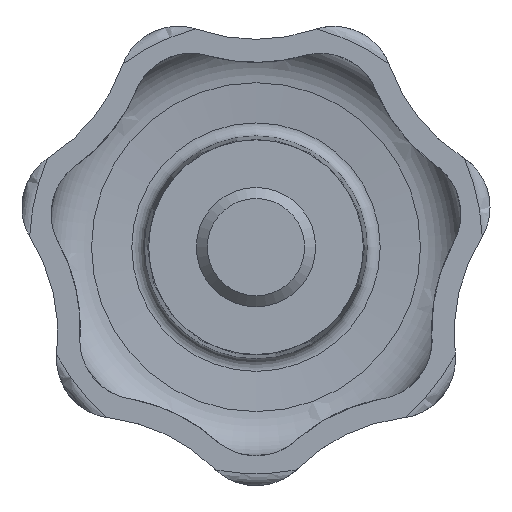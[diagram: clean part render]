
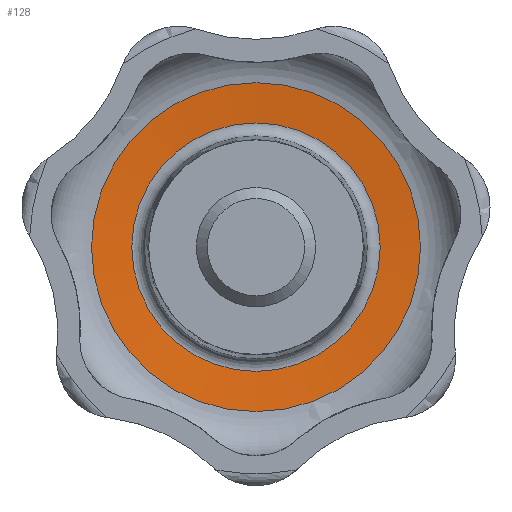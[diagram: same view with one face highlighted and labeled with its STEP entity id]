
A CAD part, front view. The second image highlights one B-rep face of the part: STEP entity #128.
In plain terms, the highlighted conical face has half-angle 85 degrees and reference radius 13.793 mm.
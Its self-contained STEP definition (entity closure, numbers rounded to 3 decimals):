
#128 = ADVANCED_FACE( '', ( #265, #266 ), #267, .F. );
#265 = FACE_BOUND( '', #423, .T. );
#266 = FACE_OUTER_BOUND( '', #424, .T. );
#267 = CONICAL_SURFACE( '', #425, 13.793, 1.484 );
#423 = EDGE_LOOP( '', ( #938 ) );
#424 = EDGE_LOOP( '', ( #939 ) );
#425 = AXIS2_PLACEMENT_3D( '', #940, #941, #942 );
#938 = ORIENTED_EDGE( '', *, *, #1269, .F. );
#939 = ORIENTED_EDGE( '', *, *, #1121, .T. );
#940 = CARTESIAN_POINT( '', ( 0., 19.611, 0. ) );
#941 = DIRECTION( '', ( 0., -1., 0. ) );
#942 = DIRECTION( '', ( 1., 0., 0. ) );
#1121 = EDGE_CURVE( '', #1355, #1355, #1356, .T. );
#1269 = EDGE_CURVE( '', #1599, #1599, #1600, .T. );
#1355 = VERTEX_POINT( '', #1957 );
#1356 = CIRCLE( '', #1958, 13.793 );
#1599 = VERTEX_POINT( '', #2955 );
#1600 = CIRCLE( '', #2956, 10.417 );
#1957 = CARTESIAN_POINT( '', ( 13.793, 19.611, 0. ) );
#1958 = AXIS2_PLACEMENT_3D( '', #3056, #3057, #3058 );
#2955 = CARTESIAN_POINT( '', ( 10.417, 19.907, 0. ) );
#2956 = AXIS2_PLACEMENT_3D( '', #3304, #3305, #3306 );
#3056 = CARTESIAN_POINT( '', ( 0., 19.611, 0. ) );
#3057 = DIRECTION( '', ( 0., -1., 0. ) );
#3058 = DIRECTION( '', ( 1., 0., 0. ) );
#3304 = CARTESIAN_POINT( '', ( 0., 19.907, 0. ) );
#3305 = DIRECTION( '', ( 0., -1., 0. ) );
#3306 = DIRECTION( '', ( 1., 0., 0. ) );
